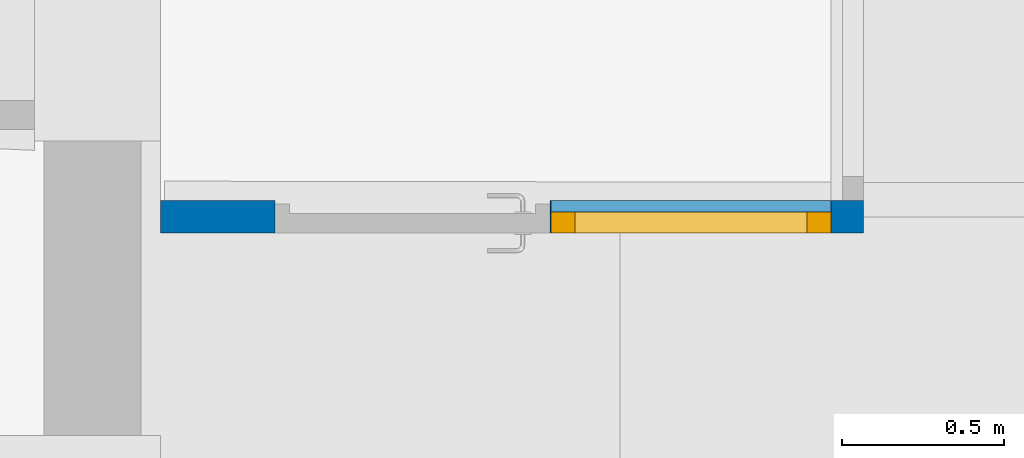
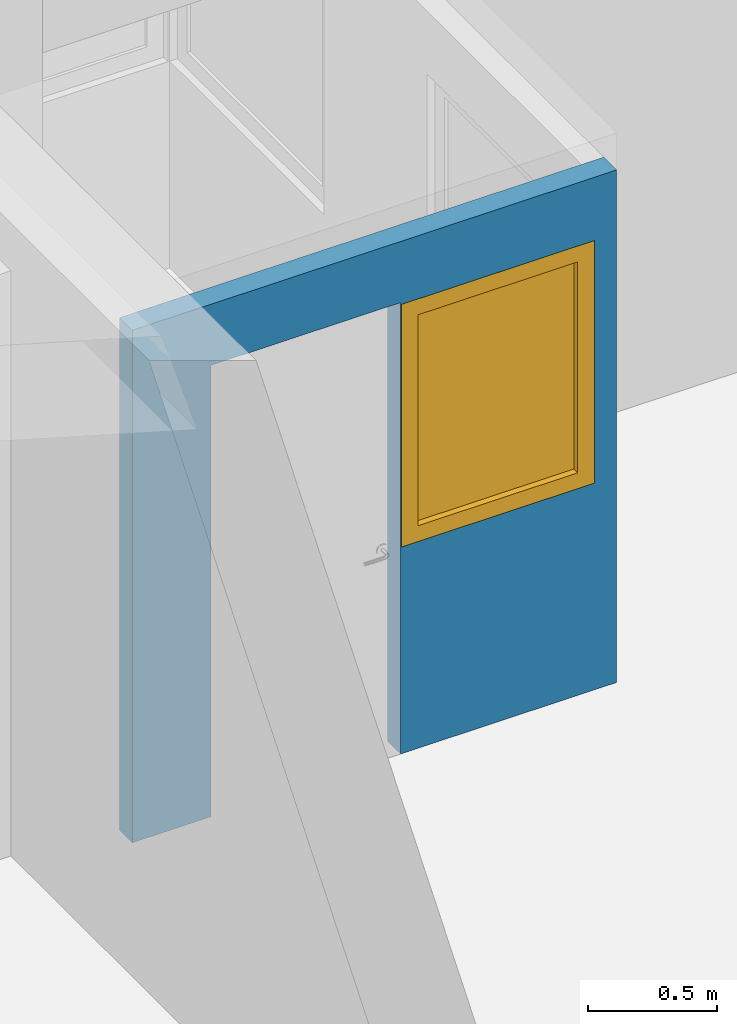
# One storey, part 122 of 301: 1 wall, 1 window, 2 openings.
"""IFC2X3 building model written with IfcOpenShell, lengths in millimetres."""

from ifc_helpers import new_model, entity, si_unit, converted_unit, derived_unit, money_unit, direction, frame, origin_with_axes, place, context, subcontext, project, spatial, open_shell, faceted_brep, surface_model, material, type_object, element, fill, save


model = new_model("IFC2X3")

# Units and contexts
model_context = context("Model", 3, precision=0.01, world=origin_with_axes(), true_north=direction((0.0, 1.0)))
body_context = subcontext(model_context, "Body", "Model", "MODEL_VIEW")
ifc_project = project(units=[si_unit("LENGTHUNIT", "METRE", prefix="MILLI"), si_unit("AREAUNIT", "SQUARE_METRE"), si_unit("VOLUMEUNIT", "CUBIC_METRE"), converted_unit("PLANEANGLEUNIT", "DEGREE", entity("IfcPlaneAngleMeasure", 0.0174532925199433), si_unit("PLANEANGLEUNIT", "RADIAN"), dimensions=[0, 0, 0, 0, 0, 0, 0]), money_unit("EUR"), converted_unit("TIMEUNIT", "Year", entity("IfcTimeMeasure", 31557600.0), si_unit("TIMEUNIT", "SECOND"), dimensions=[0, 0, 1, 0, 0, 0, 0]), si_unit("MASSUNIT", "GRAM", prefix="KILO"), si_unit("THERMODYNAMICTEMPERATUREUNIT", "DEGREE_CELSIUS"), si_unit("LUMINOUSINTENSITYUNIT", "LUMEN"), si_unit("ENERGYUNIT", "JOULE", prefix="MEGA"), derived_unit("THERMALCONDUCTANCEUNIT", [(si_unit("POWERUNIT", "WATT"), 1), (si_unit("LENGTHUNIT", "METRE"), -1), (si_unit("THERMODYNAMICTEMPERATUREUNIT", "KELVIN"), -1)]), derived_unit("SPECIFICHEATCAPACITYUNIT", [(si_unit("ENERGYUNIT", "JOULE"), 1), (si_unit("MASSUNIT", "GRAM", prefix="KILO"), -1), (si_unit("THERMODYNAMICTEMPERATUREUNIT", "KELVIN"), -1)]), derived_unit("MASSDENSITYUNIT", [(si_unit("MASSUNIT", "GRAM", prefix="KILO"), 1), (si_unit("VOLUMEUNIT", "CUBIC_METRE"), -1)])], contexts=[model_context])

# Site, building, storey
site_placement = place(None, frame((0.0, 0.0, 8650.0), z_axis=(0.0, 0.0, 1.0), x_axis=(1.0, 0.0, 0.0)))
site = spatial("IfcSite", under=ifc_project, at=site_placement, Name="43301:001:0844", CompositionType="ELEMENT")
building_placement = place(site_placement, origin_with_axes())
building = spatial("IfcBuilding", under=site, at=building_placement, Name="Kuressaare Ametikooli tuulikute mehaanikute õppekorpus", CompositionType="ELEMENT")
storey_placement = place(building_placement, origin_with_axes())
storey = spatial("IfcBuildingStorey", under=building, at=storey_placement, Name="1.korrus", CompositionType="ELEMENT", Elevation=0.0)

# Wall, openings, window
ifc_material = material(Name="GENEERILINE - KONSTRUKTRIOON")
wall_type = type_object("IfcWallType", Name="GENEERILINE - KONSTRUKTRIOON 100", PredefinedType="NOTDEFINED")
wall_placement = place(storey_placement, frame((87898.75644683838, 48450.46013715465, 130.0), z_axis=(0.0, 0.0, 1.0), x_axis=(1.0, 0.0, 0.0)))
wall = element("IfcWall", 1, at=wall_placement, inside=storey, type_object=wall_type, material=ifc_material, Name="SS-XX", context=body_context, shape_type="Brep", body=[
    faceted_brep([(712.8959911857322, 100.0000000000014, 2140.0), (712.8959911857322, 100.0000000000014, 0.0), (359.9999999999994, 100.0000000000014, 0.0), (359.9999999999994, 100.0000000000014, 2430.0), (2532.000122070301, 100.0000000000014, 2430.0), (2532.000122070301, 100.0000000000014, 0.0), (1562.895991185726, 100.0000000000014, 0.0), (1562.895991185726, 100.0000000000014, 2140.0), (2432.000122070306, 100.0000000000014, 980.0000000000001), (2432.000122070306, 100.0000000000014, 2130.0), (1566.084781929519, 100.0000000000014, 2130.0), (1566.084781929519, 100.0000000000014, 980.0000000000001), (712.8959911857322, 0.0, 2140.0), (712.8959911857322, 0.0, 0.0), (359.9999999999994, 0.0, 0.0), (359.9999999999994, 0.0, 2430.0), (2532.000122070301, 0.0, 2430.0), (2532.000122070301, 0.0, 0.0), (1562.895991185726, 0.0, 0.0), (1562.895991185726, 0.0, 2140.0), (2432.000122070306, 0.0, 980.0000000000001), (2432.000122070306, 0.0, 2130.0), (1566.084781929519, 0.0, 2130.0), (1566.084781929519, 0.0, 980.0000000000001)], [[[0, 1, 2, 3, 4, 5, 6, 7], [8, 9, 10, 11]], [[1, 0, 12, 13]], [[1, 13, 14, 2]], [[14, 15, 3, 2]], [[3, 15, 16, 4]], [[4, 16, 17, 5]], [[18, 6, 5, 17]], [[7, 6, 18, 19]], [[0, 7, 19, 12]], [[8, 20, 21, 9]], [[9, 21, 22, 10]], [[10, 22, 23, 11]], [[11, 23, 20, 8]], [[19, 18, 17, 16, 15, 14, 13, 12], [22, 21, 20, 23]]]),
])
opening_1_placement = place(wall_placement, frame((1999.042451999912, 0.0, 979.9999999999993), z_axis=(0.0, 0.0, 1.0), x_axis=(1.0, 0.0, 0.0)))
opening_1 = element("IfcOpeningElement", 2, at=opening_1_placement, cuts=wall, Name="SA-XX", context=body_context, shape_type="Brep", body=[
    faceted_brep([(432.9576700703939, 100.9999999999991, 1150.0), (432.9576700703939, 100.9999999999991, 0.0), (-432.9576700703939, 100.9999999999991, 0.0), (-432.9576700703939, 100.9999999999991, 1150.0), (432.9576700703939, -0.9999999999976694, 1150.0), (432.9576700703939, -0.9999999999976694, 0.0), (-432.9576700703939, -0.9999999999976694, 0.0), (-432.9576700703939, -0.9999999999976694, 1150.0)], [[[0, 1, 2, 3]], [[4, 5, 1, 0]], [[5, 6, 2, 1]], [[6, 7, 3, 2]], [[7, 4, 0, 3]], [[6, 5, 4, 7]]]),
])
opening_2_placement = place(wall_placement, frame((1137.895991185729, 0.0, 0.0), z_axis=(0.0, 0.0, 1.0), x_axis=(1.0, 0.0, 0.0)))
element("IfcOpeningElement", 3, at=opening_2_placement, cuts=wall, Name="SU-XX", context=body_context, shape_type="Brep", body=[
    faceted_brep([(424.9999999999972, 100.9999999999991, 2140.0), (424.9999999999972, 100.9999999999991, 0.0), (-424.9999999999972, 100.9999999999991, 0.0), (-424.9999999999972, 100.9999999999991, 2140.0), (424.9999999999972, -0.9999999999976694, 2140.0), (424.9999999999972, -0.9999999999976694, 0.0), (-424.9999999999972, -0.9999999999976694, 0.0), (-424.9999999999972, -0.9999999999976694, 2140.0)], [[[0, 1, 2, 3]], [[4, 5, 1, 0]], [[5, 6, 2, 1]], [[6, 7, 3, 2]], [[7, 4, 0, 3]], [[6, 5, 4, 7]]]),
])
window_style = type_object("IfcWindowStyle", Name="Window 27", ConstructionType="NOTDEFINED", OperationType="SINGLE_PANEL", ParameterTakesPrecedence=False, Sizeable=False)
window_placement = place(opening_1_placement, frame((-432.9576700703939, 0.0, 0.0), z_axis=(0.0, 0.0, 1.0), x_axis=(1.0, 0.0, 0.0)))
window = element("IfcWindow", 4, at=window_placement, inside=storey, type_object=window_style, Name="SA-XX", OverallHeight=1150.0, OverallWidth=865.915, context=body_context, shape_type="SurfaceModel", body=[
    faceted_brep([(790.9153401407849, 0.0, 1075.0), (865.9153401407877, 0.0, 1075.0), (865.9153401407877, 64.99999999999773, 1075.0), (790.9153401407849, 64.99999999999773, 1075.0), (790.9153401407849, 0.0, 74.99999999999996), (865.9153401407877, 0.0, 74.99999999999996), (865.9153401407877, 64.99999999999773, 74.99999999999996), (790.9153401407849, 64.99999999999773, 74.99999999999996)], [[[0, 1, 2, 3]], [[0, 4, 5, 1]], [[1, 5, 6, 2]], [[3, 2, 6, 7]], [[4, 0, 3, 7]], [[5, 4, 7, 6]]]),
    faceted_brep([(75.00000000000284, 0.0, 74.99999999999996), (0.0, 0.0, 74.99999999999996), (0.0, 64.99999999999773, 74.99999999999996), (75.00000000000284, 64.99999999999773, 74.99999999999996), (75.00000000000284, 0.0, 1075.0), (0.0, 0.0, 1075.0), (0.0, 64.99999999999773, 1075.0), (75.00000000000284, 64.99999999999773, 1075.0)], [[[0, 1, 2, 3]], [[0, 4, 5, 1]], [[1, 5, 6, 2]], [[3, 2, 6, 7]], [[4, 0, 3, 7]], [[5, 4, 7, 6]]]),
    faceted_brep([(790.9153401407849, 0.0, 74.99999999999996), (865.9153401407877, 0.0, 74.99999999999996), (865.9153401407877, 64.99999999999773, 74.99999999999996), (790.9153401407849, 64.99999999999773, 74.99999999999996), (75.00000000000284, 0.0, 74.99999999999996), (0.0, 0.0, 74.99999999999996), (0.0, 0.0, 0.0), (865.9153401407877, 0.0, 0.0), (865.9153401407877, 64.99999999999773, 0.0), (0.0, 64.99999999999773, 0.0), (0.0, 64.99999999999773, 74.99999999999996), (75.00000000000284, 64.99999999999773, 74.99999999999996)], [[[0, 1, 2, 3]], [[0, 4, 5, 6, 7, 1]], [[1, 7, 8, 2]], [[3, 2, 8, 9, 10, 11]], [[4, 0, 3, 11]], [[5, 4, 11, 10]], [[6, 5, 10, 9]], [[7, 6, 9, 8]]]),
    faceted_brep([(75.00000000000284, 0.0, 1075.0), (0.0, 0.0, 1075.0), (0.0, 64.99999999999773, 1075.0), (75.00000000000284, 64.99999999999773, 1075.0), (790.9153401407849, 0.0, 1075.0), (865.9153401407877, 0.0, 1075.0), (865.9153401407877, 0.0, 1150.0), (0.0, 0.0, 1150.0), (0.0, 64.99999999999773, 1150.0), (865.9153401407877, 64.99999999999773, 1150.0), (865.9153401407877, 64.99999999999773, 1075.0), (790.9153401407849, 64.99999999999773, 1075.0)], [[[0, 1, 2, 3]], [[0, 4, 5, 6, 7, 1]], [[1, 7, 8, 2]], [[3, 2, 8, 9, 10, 11]], [[4, 0, 3, 11]], [[5, 4, 11, 10]], [[6, 5, 10, 9]], [[7, 6, 9, 8]]]),
    surface_model("IfcShellBasedSurfaceModel", [(790.9153401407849, 30.00000000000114, 74.99999999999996), (790.9153401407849, 30.00000000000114, 1075.0), (75.00000000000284, 30.00000000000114, 1075.0), (75.00000000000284, 30.00000000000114, 74.99999999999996)], [open_shell([[[0, 1, 2, 3]]])]),
    surface_model("IfcShellBasedSurfaceModel", [(790.9153401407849, 49.99999999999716, 74.99999999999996), (75.00000000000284, 49.99999999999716, 74.99999999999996), (75.00000000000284, 49.99999999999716, 1075.0), (790.9153401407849, 49.99999999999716, 1075.0)], [open_shell([[[0, 1, 2, 3]]])]),
])
fill(opening_1, window)

save(model, "model.ifc")
